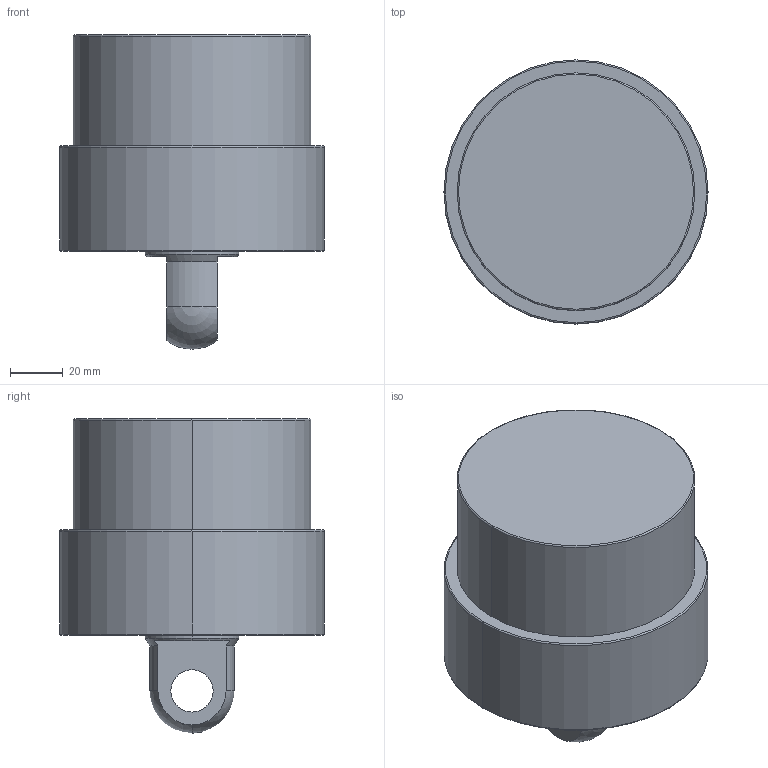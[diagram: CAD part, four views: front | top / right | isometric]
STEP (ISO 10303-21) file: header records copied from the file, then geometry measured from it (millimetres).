
FILE_DESCRIPTION (( 'STEP AP203' ), '1' );
FILE_NAME ('CLLU-090CP-020.STEP', '2020-01-13T03:09:46', ( '' ), ( '' ), 'SwSTEP 2.0', 'SolidWorks 2015', '' );
FILE_SCHEMA (( 'CONFIG_CONTROL_DESIGN' ));
Length unit declared in the file: millimetre
Products named in the file (1): CLLU-090CP-020
Bounding box: 100 x 100 x 119 mm (x, y, z)
Volume: 591035.6 mm3; surface area: 46010.1 mm2
Topology: 1 solids, 1 shells, 57 faces, 134 edges, 77 vertices
Faces by surface type: cylinder 22, cone 18, plane 9, torus 6, sphere 2
Entity records: 1643 total; most frequent: DIRECTION 308, CARTESIAN_POINT 267, ORIENTED_EDGE 244, AXIS2_PLACEMENT_3D 132, EDGE_CURVE 122, VERTEX_POINT 75, CIRCLE 74, EDGE_LOOP 67
